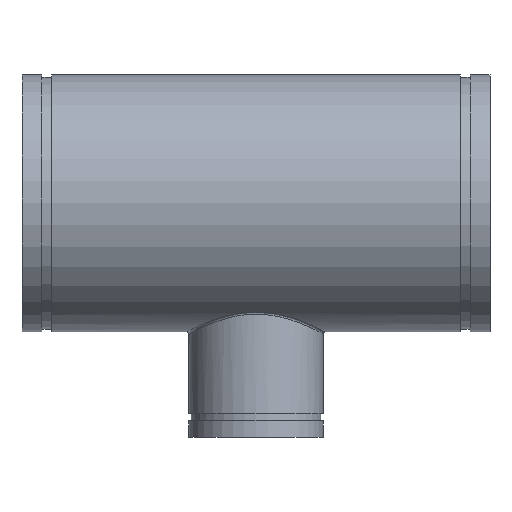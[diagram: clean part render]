
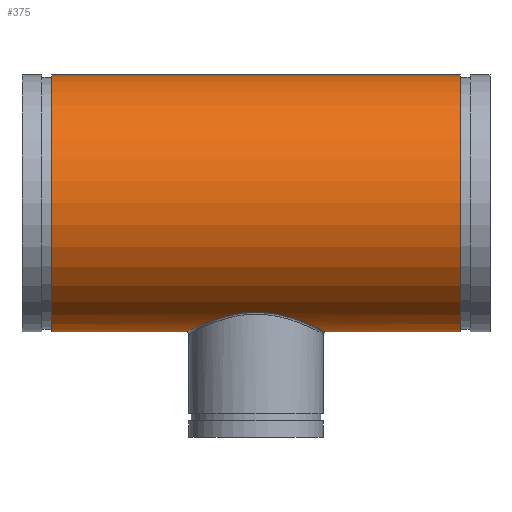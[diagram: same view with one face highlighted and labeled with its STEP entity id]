
A CAD part, top view. The second image highlights one B-rep face of the part: STEP entity #375.
In plain terms, the highlighted cylindrical face has radius 167.64 mm (diameter 335.28 mm), a full revolution.
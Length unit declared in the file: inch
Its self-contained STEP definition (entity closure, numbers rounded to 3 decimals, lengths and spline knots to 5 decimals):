
#54=FACE_BOUND('',#119,.T.);
#65=LINE('',#798,#76);
#76=VECTOR('',#483,6.6);
#87=CYLINDRICAL_SURFACE('',#415,6.6);
#98=FACE_OUTER_BOUND('',#118,.T.);
#118=EDGE_LOOP('',(#266,#267,#268,#269));
#119=EDGE_LOOP('',(#270));
#150=B_SPLINE_CURVE_WITH_KNOTS('',3,(#769,#770,#771,#772,#773,#774,#775,
#776,#777,#778,#779,#780,#781,#782,#783,#784,#785,#786,#787,#788,#789,#790,
#791,#792,#793),.UNSPECIFIED.,.T.,.F.,(4,1,1,1,1,1,1,1,1,1,1,1,1,1,1,1,
1,1,1,1,1,1,4),(-54.01223,-52.08322,-50.15421,-46.2962,
-43.72418,-41.15217,-39.86617,-38.58016,
-36.00815,-33.43614,-30.86413,-28.29212,
-25.72011,-23.1481,-20.57609,-18.00408,
-15.43207,-12.86005,-10.28804,-7.71603,
-3.85802,-1.92901,0.),.UNSPECIFIED.);
#154=CIRCLE('',#416,6.6);
#155=CIRCLE('',#417,6.6);
#182=VERTEX_POINT('',#736);
#185=VERTEX_POINT('',#795);
#186=VERTEX_POINT('',#797);
#219=EDGE_CURVE('',#182,#182,#150,.T.);
#220=EDGE_CURVE('',#185,#185,#154,.T.);
#221=EDGE_CURVE('',#185,#186,#65,.T.);
#222=EDGE_CURVE('',#186,#186,#155,.T.);
#266=ORIENTED_EDGE('',*,*,#220,.T.);
#267=ORIENTED_EDGE('',*,*,#221,.T.);
#268=ORIENTED_EDGE('',*,*,#222,.T.);
#269=ORIENTED_EDGE('',*,*,#221,.F.);
#270=ORIENTED_EDGE('',*,*,#219,.F.);
#375=ADVANCED_FACE('',(#98,#54),#87,.T.);
#415=AXIS2_PLACEMENT_3D('',#794,#479,#480);
#416=AXIS2_PLACEMENT_3D('',#796,#481,#482);
#417=AXIS2_PLACEMENT_3D('',#799,#484,#485);
#479=DIRECTION('center_axis',(-1.,0.,0.));
#480=DIRECTION('ref_axis',(0.,-1.,0.));
#481=DIRECTION('center_axis',(1.,0.,0.));
#482=DIRECTION('ref_axis',(0.,-1.,0.));
#483=DIRECTION('',(1.,0.,0.));
#484=DIRECTION('center_axis',(-1.,0.,0.));
#485=DIRECTION('ref_axis',(0.,-1.,0.));
#736=CARTESIAN_POINT('',(0.,-5.59018,-3.50855));
#769=CARTESIAN_POINT('Ctrl Pts',(0.,-5.59018,
-3.50855));
#770=CARTESIAN_POINT('Ctrl Pts',(0.27286,-5.59018,-3.50855));
#771=CARTESIAN_POINT('Ctrl Pts',(0.81831,-5.62957,-3.44671));
#772=CARTESIAN_POINT('Ctrl Pts',(1.83397,-5.8412,-3.09033));
#773=CARTESIAN_POINT('Ctrl Pts',(2.73637,-6.18871,-2.38051));
#774=CARTESIAN_POINT('Ctrl Pts',(3.3695,-6.49227,-1.32317));
#775=CARTESIAN_POINT('Ctrl Pts',(3.57883,-6.60223,-0.44812));
#776=CARTESIAN_POINT('Ctrl Pts',(3.57831,-6.60162,0.26876));
#777=CARTESIAN_POINT('Ctrl Pts',(3.46783,-6.54436,0.97507));
#778=CARTESIAN_POINT('Ctrl Pts',(3.13062,-6.3735,1.79901));
#779=CARTESIAN_POINT('Ctrl Pts',(2.46525,-6.07824,2.60969));
#780=CARTESIAN_POINT('Ctrl Pts',(1.59222,-5.7809,3.19896));
#781=CARTESIAN_POINT('Ctrl Pts',(0.5551,-5.58224,3.52175));
#782=CARTESIAN_POINT('Ctrl Pts',(-0.5551,-5.58215,3.52184));
#783=CARTESIAN_POINT('Ctrl Pts',(-1.59224,-5.78094,3.1989));
#784=CARTESIAN_POINT('Ctrl Pts',(-2.46529,-6.07825,2.60972));
#785=CARTESIAN_POINT('Ctrl Pts',(-3.1306,-6.37348,1.79888));
#786=CARTESIAN_POINT('Ctrl Pts',(-3.5354,-6.57864,0.8105));
#787=CARTESIAN_POINT('Ctrl Pts',(-3.62085,-6.62432,-0.27309));
#788=CARTESIAN_POINT('Ctrl Pts',(-3.36942,-6.49222,-1.32319));
#789=CARTESIAN_POINT('Ctrl Pts',(-2.73642,-6.18876,-2.3805));
#790=CARTESIAN_POINT('Ctrl Pts',(-1.83394,-5.84118,-3.09033));
#791=CARTESIAN_POINT('Ctrl Pts',(-0.81832,-5.62958,-3.4467));
#792=CARTESIAN_POINT('Ctrl Pts',(-0.27286,-5.59018,-3.50855));
#793=CARTESIAN_POINT('Ctrl Pts',(0.,-5.59018,
-3.50855));
#794=CARTESIAN_POINT('Origin',(12.,0.,0.));
#795=CARTESIAN_POINT('',(-10.485,6.6,0.));
#796=CARTESIAN_POINT('Origin',(-10.485,0.,0.));
#797=CARTESIAN_POINT('',(10.485,6.6,0.));
#798=CARTESIAN_POINT('',(12.,6.6,0.));
#799=CARTESIAN_POINT('Origin',(10.485,0.,0.));
